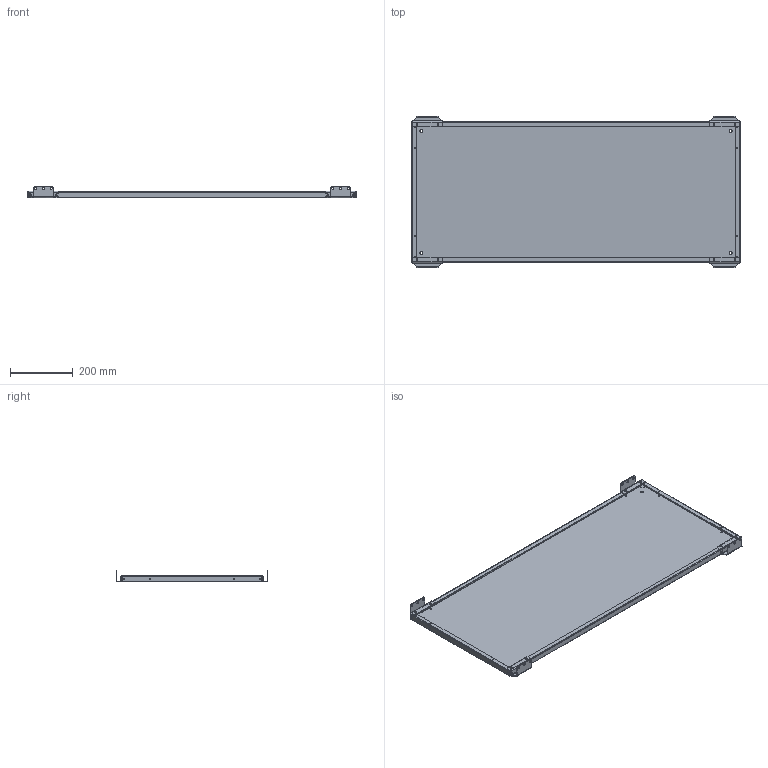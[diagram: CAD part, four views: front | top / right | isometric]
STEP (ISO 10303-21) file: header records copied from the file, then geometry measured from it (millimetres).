
FILE_DESCRIPTION (( 'STEP AP203' ), '1' );
FILE_NAME ('MP 105.45 M Ïàíåëü ìîíòàæíàÿ ñåêöèîííàÿ (ãîðèçîíòàëüíîå êðåïëåíèå).STEP', '2021-04-06T07:14:59', ( '' ), ( '' ), 'SwSTEP 2.0', 'SolidWorks 2018', '' );
FILE_SCHEMA (( 'CONFIG_CONTROL_DESIGN' ));
Length unit declared in the file: millimetre
Products named in the file (1): MP 105.45 M Ïàíåëü ìîíòàæíàÿ ñåêöèîííàÿ (ãîðèçîíòàëüíîå êðåïëåíèå)
Bounding box: 1050 x 485 x 37.75 mm (x, y, z)
Volume: 1175128.4 mm3; surface area: 1186030.7 mm2
Topology: 5 solids, 5 shells, 388 faces, 1016 edges, 632 vertices
Faces by surface type: cylinder 196, plane 168, bspline 16, sphere 8
Entity records: 12713 total; most frequent: CARTESIAN_POINT 2749, DIRECTION 2050, ORIENTED_EDGE 2016, EDGE_CURVE 1008, AXIS2_PLACEMENT_3D 733, VERTEX_POINT 632, LINE 584, VECTOR 584
